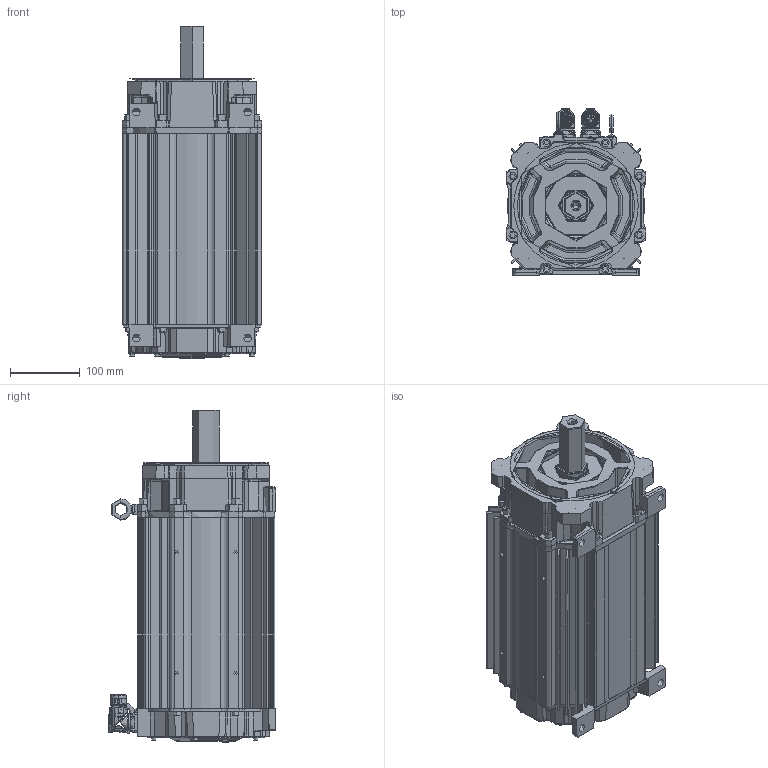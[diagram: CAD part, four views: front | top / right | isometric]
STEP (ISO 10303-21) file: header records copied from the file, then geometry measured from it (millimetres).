
FILE_DESCRIPTION((''),'2;1');
FILE_NAME('10001410822_ASM','2020-01-15T16:23:47',('VThimma'),('Rockwell Automation'),'CREO PARAMETRIC BY PTC INC, 2017380','CREO PARAMETRIC BY PTC INC, 2017380','');
FILE_SCHEMA(('CONFIG_CONTROL_DESIGN','SHAPE_APPEARANCE_LAYERS_GROUPS'));
Products named in the file (28): 10001365220; 10001238886_AF0; 10001298482_AF22; 10001284445_ASM; CH31X150; 10001406656_ASM; 10001334964_KEYLESS; 10001398525_ASM; 10001257630_AF309; 10001300098_AF281; 10001314842_ASM; 10001586886; 10000172464; 0002-5005; 10000014325-2; 10000014331; 10000014332-460; 10000014330-460_ASM; 10000014325-1; 10000014326-1; 10000014326-M23_ASM; 10000014328-M23; 10000014325-M23_ASM; 10000569218; 10001290343; 221404-Q12; 10001609981; 10001410822_ASM
Assembly tree (59 placements, depth 4):
  10001410822_ASM
    10001406656_ASM
      10001365220
      10001284445_ASM
        10001238886_AF0
        10001298482_AF22
      CH31X150  x8
    10001398525_ASM
      10001334964_KEYLESS
    10001314842_ASM
      10001257630_AF309
      10001300098_AF281
    10001586886  x8
    10000172464  x9
    0002-5005  x2
    10000014330-460_ASM
      10000014325-2
      10000014331
      10000014332-460
    10000014325-M23_ASM
      10000014325-2
      10000014325-1
      10000014326-M23_ASM
        10000014326-1
      10000014328-M23  x4
    10000569218
    10001290343
    221404-Q12  x6
    10001609981
Bounding box: 200.45 x 240.53 x 476.79 mm (x, y, z)
Topology: 0 solids, 71 shells, 7762 faces, 20280 edges, 12632 vertices
Faces by surface type: cylinder 2508, plane 1837, bspline 1665, torus 903, cone 701, sphere 143, extrusion 3, revolution 2
Entity records: 380204 total; most frequent: CARTESIAN_POINT 151365, ORIENTED_EDGE 30848, DIRECTION 25447, PRESENTATION_STYLE_ASSIGNMENT 21302, STYLED_ITEM 21302, CURVE_STYLE 15434, EDGE_CURVE 15430, AXIS2_PLACEMENT_3D 10299
